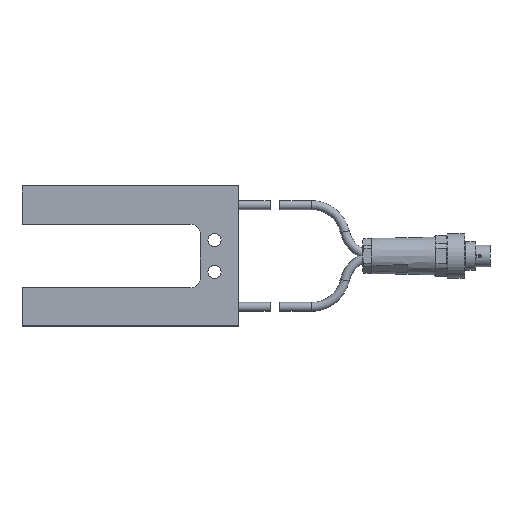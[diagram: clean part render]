
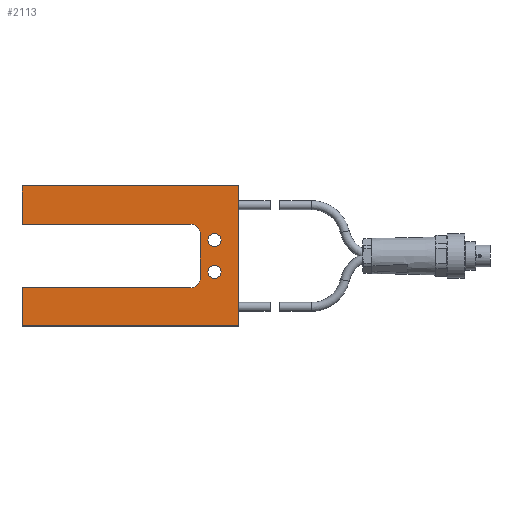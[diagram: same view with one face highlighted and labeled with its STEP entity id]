
A CAD part, top view. The second image highlights one B-rep face of the part: STEP entity #2113.
In plain terms, the highlighted planar face has unit normal (0, 0, 1).
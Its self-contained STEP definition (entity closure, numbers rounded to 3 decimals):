
#109=LINE($,#3849,#195);
#113=LINE($,#3861,#199);
#114=LINE($,#3865,#200);
#118=LINE($,#3873,#204);
#121=LINE($,#3879,#207);
#124=LINE($,#3884,#210);
#126=LINE($,#3888,#212);
#129=LINE($,#3893,#215);
#195=VECTOR($,#3062,14.);
#199=VECTOR($,#3074,53.);
#200=VECTOR($,#3077,68.);
#204=VECTOR($,#3083,44.);
#207=VECTOR($,#3088,53.);
#210=VECTOR($,#3093,12.);
#212=VECTOR($,#3097,12.);
#215=VECTOR($,#3102,68.);
#307=PLANE($,#2421);
#413=FACE_BOUND($,#801,.T.);
#414=FACE_BOUND($,#802,.T.);
#415=FACE_BOUND($,#803,.T.);
#801=EDGE_LOOP($,(#1885));
#802=EDGE_LOOP($,(#1886));
#803=EDGE_LOOP($,(#1887,#1888,#1889,#1890,#1891,#1892,#1893,#1894,#1895,
#1896));
#939=CIRCLE($,#2401,2.05);
#941=CIRCLE($,#2404,2.05);
#944=CIRCLE($,#2408,3.);
#946=CIRCLE($,#2412,3.);
#1115=VERTEX_POINT($,#3826);
#1117=VERTEX_POINT($,#3831);
#1121=VERTEX_POINT($,#3839);
#1122=VERTEX_POINT($,#3841);
#1124=VERTEX_POINT($,#3847);
#1126=VERTEX_POINT($,#3853);
#1128=VERTEX_POINT($,#3859);
#1129=VERTEX_POINT($,#3863);
#1130=VERTEX_POINT($,#3864);
#1133=VERTEX_POINT($,#3872);
#1135=VERTEX_POINT($,#3878);
#1137=VERTEX_POINT($,#3887);
#1355=EDGE_CURVE($,#1115,#1115,#939,.T.);
#1357=EDGE_CURVE($,#1117,#1117,#941,.T.);
#1361=EDGE_CURVE($,#1121,#1122,#944,.T.);
#1365=EDGE_CURVE($,#1124,#1121,#109,.T.);
#1368=EDGE_CURVE($,#1126,#1124,#946,.T.);
#1371=EDGE_CURVE($,#1128,#1126,#113,.T.);
#1372=EDGE_CURVE($,#1129,#1130,#114,.T.);
#1376=EDGE_CURVE($,#1130,#1133,#118,.T.);
#1379=EDGE_CURVE($,#1122,#1135,#121,.T.);
#1382=EDGE_CURVE($,#1135,#1129,#124,.T.);
#1384=EDGE_CURVE($,#1137,#1128,#126,.T.);
#1387=EDGE_CURVE($,#1133,#1137,#129,.T.);
#1885=ORIENTED_EDGE($,*,*,#1355,.T.);
#1886=ORIENTED_EDGE($,*,*,#1357,.T.);
#1887=ORIENTED_EDGE($,*,*,#1384,.F.);
#1888=ORIENTED_EDGE($,*,*,#1387,.F.);
#1889=ORIENTED_EDGE($,*,*,#1376,.F.);
#1890=ORIENTED_EDGE($,*,*,#1372,.F.);
#1891=ORIENTED_EDGE($,*,*,#1382,.F.);
#1892=ORIENTED_EDGE($,*,*,#1379,.F.);
#1893=ORIENTED_EDGE($,*,*,#1361,.F.);
#1894=ORIENTED_EDGE($,*,*,#1365,.F.);
#1895=ORIENTED_EDGE($,*,*,#1368,.F.);
#1896=ORIENTED_EDGE($,*,*,#1371,.F.);
#2113=ADVANCED_FACE($,(#413,#414,#415),#307,.T.);
#2401=AXIS2_PLACEMENT_3D($,#3827,#3040,#3041);
#2404=AXIS2_PLACEMENT_3D($,#3832,#3046,#3047);
#2408=AXIS2_PLACEMENT_3D($,#3842,#3055,#3056);
#2412=AXIS2_PLACEMENT_3D($,#3855,#3068,#3069);
#2421=AXIS2_PLACEMENT_3D($,#3896,#3106,#3107);
#3040=DIRECTION('center_axis',(0.,0.,-1.));
#3041=DIRECTION('ref_axis',(1.,0.,0.));
#3046=DIRECTION('center_axis',(0.,0.,-1.));
#3047=DIRECTION('ref_axis',(1.,0.,0.));
#3055=DIRECTION('center_axis',(0.,0.,1.));
#3056=DIRECTION('ref_axis',(0.707,0.707,0.));
#3062=DIRECTION($,(0.,1.,0.));
#3068=DIRECTION('center_axis',(0.,0.,1.));
#3069=DIRECTION('ref_axis',(0.707,-0.707,0.));
#3074=DIRECTION($,(1.,0.,0.));
#3077=DIRECTION($,(1.,0.,0.));
#3083=DIRECTION($,(0.,-1.,0.));
#3088=DIRECTION($,(-1.,0.,0.));
#3093=DIRECTION($,(0.,1.,0.));
#3097=DIRECTION($,(0.,1.,0.));
#3102=DIRECTION($,(-1.,0.,0.));
#3106=DIRECTION('center_axis',(0.,0.,1.));
#3107=DIRECTION('ref_axis',(1.,0.,0.));
#3826=CARTESIAN_POINT('',(28.55,5.,12.));
#3827=CARTESIAN_POINT('Origin',(26.5,5.,12.));
#3831=CARTESIAN_POINT('',(28.55,-5.,12.));
#3832=CARTESIAN_POINT('Origin',(26.5,-5.,12.));
#3839=CARTESIAN_POINT('',(22.,7.,12.));
#3841=CARTESIAN_POINT('',(19.,10.,12.));
#3842=CARTESIAN_POINT('Origin',(19.,7.,12.));
#3847=CARTESIAN_POINT('',(22.,-7.,12.));
#3849=CARTESIAN_POINT($,(22.,10.,12.));
#3853=CARTESIAN_POINT('',(19.,-10.,12.));
#3855=CARTESIAN_POINT('Origin',(19.,-7.,12.));
#3859=CARTESIAN_POINT('',(-34.,-10.,12.));
#3861=CARTESIAN_POINT($,(22.,-10.,12.));
#3863=CARTESIAN_POINT('',(-34.,22.,12.));
#3864=CARTESIAN_POINT('',(34.,22.,12.));
#3865=CARTESIAN_POINT($,(34.,22.,12.));
#3872=CARTESIAN_POINT('',(34.,-22.,12.));
#3873=CARTESIAN_POINT($,(34.,-22.,12.));
#3878=CARTESIAN_POINT('',(-34.,10.,12.));
#3879=CARTESIAN_POINT($,(-34.,10.,12.));
#3884=CARTESIAN_POINT($,(-34.,22.,12.));
#3887=CARTESIAN_POINT('',(-34.,-22.,12.));
#3888=CARTESIAN_POINT($,(-34.,-10.,12.));
#3893=CARTESIAN_POINT($,(-34.,-22.,12.));
#3896=CARTESIAN_POINT('Origin',(-31.,-16.,12.));
